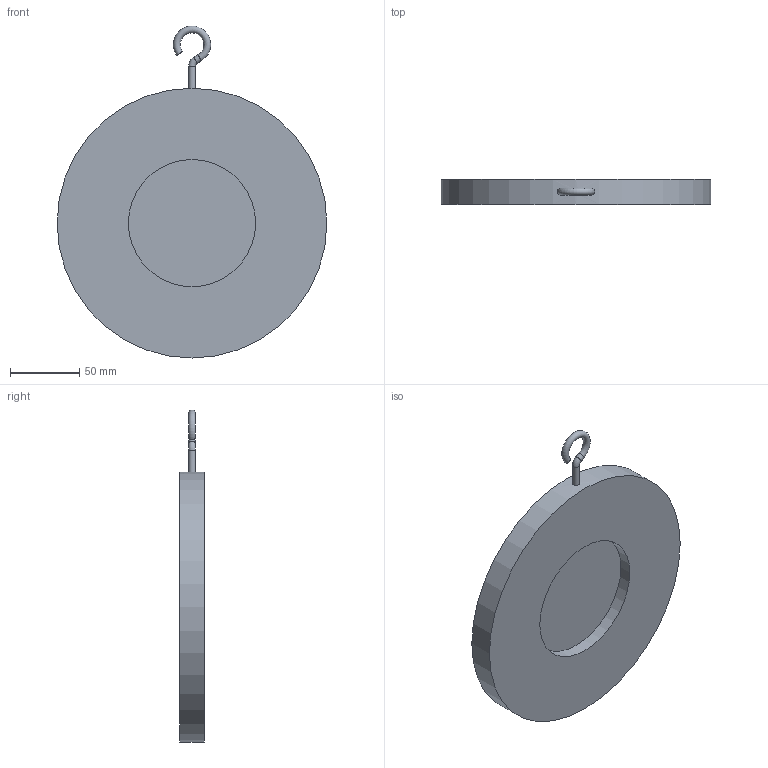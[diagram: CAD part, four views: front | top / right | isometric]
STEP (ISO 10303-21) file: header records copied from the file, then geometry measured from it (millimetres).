
FILE_DESCRIPTION(('STEP AP203'), '1');
FILE_NAME('孰囡囗 钺疣蝽 钿眍耱忸瘅囹 戾骠豚眦邂 008C DN125', '', ('UNSPECIFIED'), ('UNSPECIFIED'), 'ASCON STEP Converter 1.6', 'ASCON Math Kernel', '');
FILE_SCHEMA(('CONFIG_CONTROL_DESIGN'));
Length unit declared in the file: millimetre
Bounding box: 195 x 18 x 239.99 mm (x, y, z)
Volume: 430419.1 mm3; surface area: 79117.5 mm2
Topology: 1 solids, 1 shells, 15 faces, 30 edges, 19 vertices
Faces by surface type: plane 7, cylinder 5, torus 2, cone 1
Full cylindrical faces by diameter (mm): 5 x2, 92 x1, 195 x1
Entity records: 738 total; most frequent: CARTESIAN_POINT 294, DIRECTION 62, ORIENTED_EDGE 46, AXIS2_PLACEMENT_3D 28, EDGE_LOOP 24, EDGE_CURVE 23, VERTEX_POINT 19, COLOUR_RGB 16
